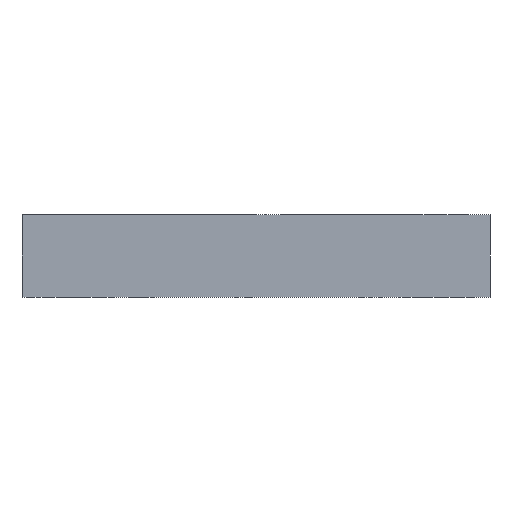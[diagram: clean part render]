
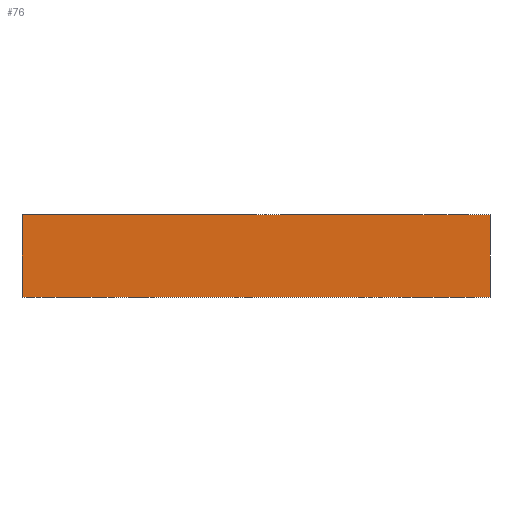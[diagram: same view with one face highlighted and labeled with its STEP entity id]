
A CAD part, left-side view. The second image highlights one B-rep face of the part: STEP entity #76.
In plain terms, the highlighted planar face has unit normal (-1, 0, 0).
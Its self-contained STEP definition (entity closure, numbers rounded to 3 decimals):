
#76 = ADVANCED_FACE( '', ( #149 ), #150, .T. );
#149 = FACE_OUTER_BOUND( '', #320, .T. );
#150 = PLANE( '', #321 );
#320 = EDGE_LOOP( '', ( #802, #803, #804, #805 ) );
#321 = AXIS2_PLACEMENT_3D( '', #806, #807, #808 );
#802 = ORIENTED_EDGE( '', *, *, #1225, .F. );
#803 = ORIENTED_EDGE( '', *, *, #1231, .F. );
#804 = ORIENTED_EDGE( '', *, *, #1232, .T. );
#805 = ORIENTED_EDGE( '', *, *, #1233, .T. );
#806 = CARTESIAN_POINT( '', ( -100., 100., -35.22 ) );
#807 = DIRECTION( '', ( -1., 0., 0. ) );
#808 = DIRECTION( '', ( 0., 0., 1. ) );
#1225 = EDGE_CURVE( '', #1381, #1382, #1383, .T. );
#1231 = EDGE_CURVE( '', #1393, #1381, #1394, .T. );
#1232 = EDGE_CURVE( '', #1393, #1395, #1396, .T. );
#1233 = EDGE_CURVE( '', #1395, #1382, #1397, .T. );
#1381 = VERTEX_POINT( '', #1604 );
#1382 = VERTEX_POINT( '', #1605 );
#1383 = LINE( '', #1606, #1607 );
#1393 = VERTEX_POINT( '', #1620 );
#1394 = LINE( '', #1621, #1622 );
#1395 = VERTEX_POINT( '', #1623 );
#1396 = LINE( '', #1624, #1625 );
#1397 = LINE( '', #1626, #1627 );
#1604 = CARTESIAN_POINT( '', ( -100., 100., 0. ) );
#1605 = CARTESIAN_POINT( '', ( -100., -100., 0. ) );
#1606 = CARTESIAN_POINT( '', ( -100., 100., 0. ) );
#1607 = VECTOR( '', #1851, 1000. );
#1620 = CARTESIAN_POINT( '', ( -100., 100., -35.22 ) );
#1621 = CARTESIAN_POINT( '', ( -100., 100., -35.22 ) );
#1622 = VECTOR( '', #1861, 1000. );
#1623 = CARTESIAN_POINT( '', ( -100., -100., -35.22 ) );
#1624 = CARTESIAN_POINT( '', ( -100., 100., -35.22 ) );
#1625 = VECTOR( '', #1862, 1000. );
#1626 = CARTESIAN_POINT( '', ( -100., -100., -35.22 ) );
#1627 = VECTOR( '', #1863, 1000. );
#1851 = DIRECTION( '', ( 0., -1., 0. ) );
#1861 = DIRECTION( '', ( 0., 0., 1. ) );
#1862 = DIRECTION( '', ( 0., -1., 0. ) );
#1863 = DIRECTION( '', ( 0., 0., 1. ) );
